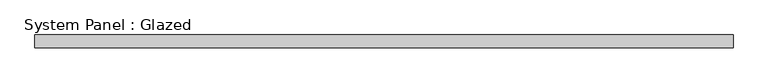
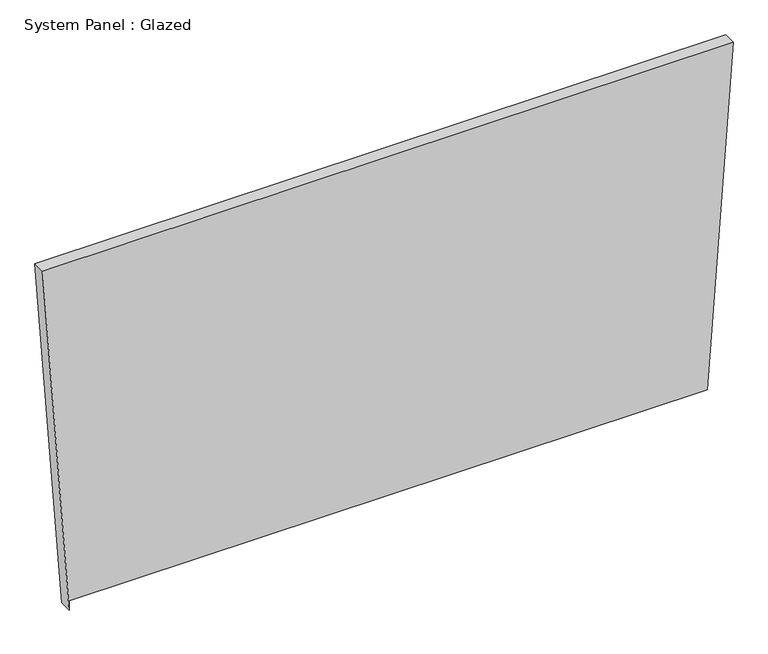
"""IFC4 building model written with IfcOpenShell, lengths in millimetres: plate geometry, System Panel : Glazed."""

from ifc_helpers import new_model, si_unit, frame, origin, place, context, project, spatial, polyline, outline, extrude, source, transform, mapped, element, save


def system_panel_glazed_5fdba696(model_context):
    return source(origin(), model_context, "Body", "SweptSolid", [
        extrude(outline(polyline([(0.0, -626.2961644), (19.05, -626.2962455), (19.0553412, 627.6801052), (723.0054255, 678.8077826), (723.0048369, -678.8077826), (0.0, -626.2961644)])), frame((0.0, 19.05, 0.0), z_axis=(0.0, 1.0, 0.0), x_axis=(0.0, 0.0, 1.0)), (0.0, 0.0, 1.0), 25.4),
    ])


if __name__ == "__main__":
    model = new_model("IFC4")
    model_context = context("Model", 3, world=origin())
    ifc_project = project(units=[si_unit("LENGTHUNIT", "METRE", prefix="MILLI")], contexts=[model_context])
    site = spatial("IfcSite", under=ifc_project)
    building = spatial("IfcBuilding", under=site)
    placement = place(None, origin())
    system_panel_glazed_shape = system_panel_glazed_5fdba696(model_context)
    element("IfcPlate", 1, ObjectType="System Panel : Glazed", at=placement, inside=building, context=model_context, shape_type="MappedRepresentation", body=[
        mapped(system_panel_glazed_shape, transform((0.0, 0.0, 0.0), x_axis=(1.0, 0.0, 0.0), y_axis=(0.0, 1.0, 0.0), z_axis=(0.0, 0.0, 1.0))),
    ])
    save(model, "model.ifc")
